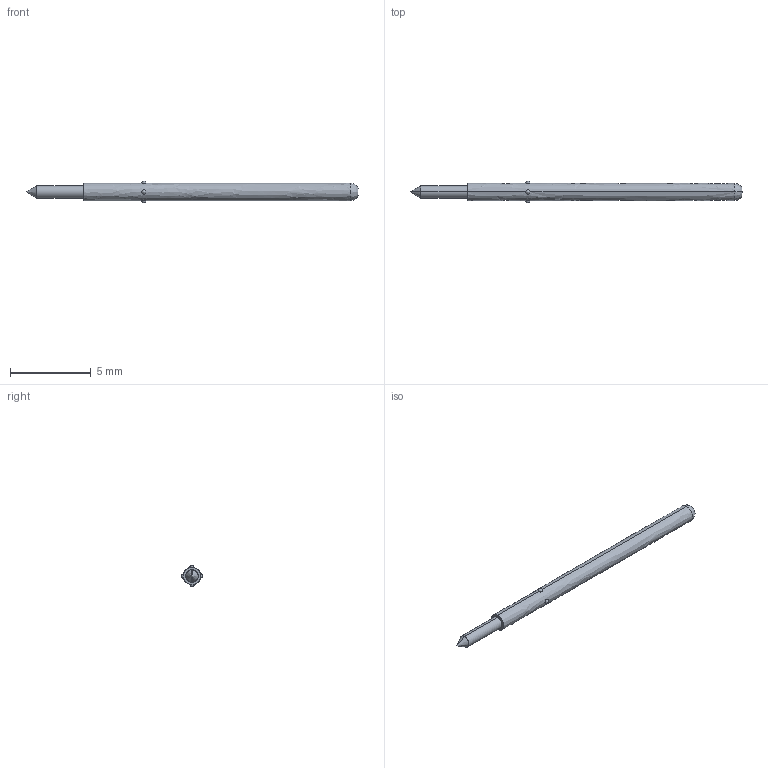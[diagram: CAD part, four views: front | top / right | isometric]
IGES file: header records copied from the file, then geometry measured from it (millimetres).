
Start section: SolidWorks IGES file using analytic representation for surfaces
Global section: file name: O:\PYLON\IGES FILES\P2663\P2663G-1C1S.IGS; native system: SolidWorks 2015; preprocessor: SolidWorks 2015; author: kgolden; date: 171019.095158; units: inch
Bounding box: 20.53 x 1.32 x 1.32 mm (x, y, z)
Surface area: 70.2 mm2 (no closed solid volume)
Topology: 0 solids, 0 shells, 20 faces, 228 edges, 210 vertices
Faces by surface type: revolution 16, bspline 4
